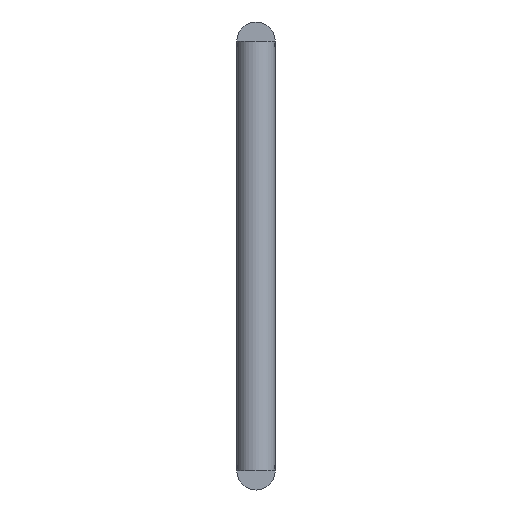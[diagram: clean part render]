
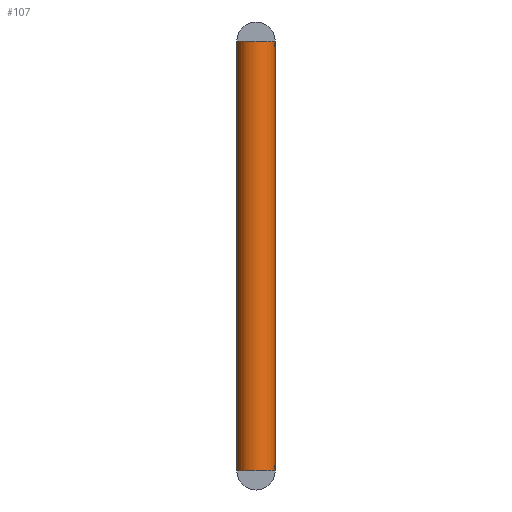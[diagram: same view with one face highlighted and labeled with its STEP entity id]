
A CAD part, front view. The second image highlights one B-rep face of the part: STEP entity #107.
In plain terms, the highlighted cylindrical face has radius 12 mm (diameter 24 mm), a full revolution.
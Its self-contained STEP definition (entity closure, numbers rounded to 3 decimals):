
#107 = ADVANCED_FACE('',(#108),#121,.T.);
#108 = FACE_BOUND('',#109,.T.);
#109 = EDGE_LOOP('',(#110,#144,#167,#194));
#110 = ORIENTED_EDGE('',*,*,#111,.F.);
#111 = EDGE_CURVE('',#112,#112,#114,.T.);
#112 = VERTEX_POINT('',#113);
#113 = CARTESIAN_POINT('',(1507.,-220.,1240.));
#114 = SURFACE_CURVE('',#115,(#120,#132),.PCURVE_S1.);
#115 = CIRCLE('',#116,12.);
#116 = AXIS2_PLACEMENT_3D('',#117,#118,#119);
#117 = CARTESIAN_POINT('',(1495.,-220.,1240.));
#118 = DIRECTION('',(0.,0.,1.));
#119 = DIRECTION('',(1.,0.,-0.));
#120 = PCURVE('',#121,#126);
#121 = CYLINDRICAL_SURFACE('',#122,12.);
#122 = AXIS2_PLACEMENT_3D('',#123,#124,#125);
#123 = CARTESIAN_POINT('',(1495.,-220.,970.));
#124 = DIRECTION('',(0.,0.,1.));
#125 = DIRECTION('',(1.,0.,-0.));
#126 = DEFINITIONAL_REPRESENTATION('',(#127),#131);
#127 = LINE('',#128,#129);
#128 = CARTESIAN_POINT('',(0.,270.));
#129 = VECTOR('',#130,1.);
#130 = DIRECTION('',(1.,0.));
#131 = ( GEOMETRIC_REPRESENTATION_CONTEXT(2) 
PARAMETRIC_REPRESENTATION_CONTEXT() REPRESENTATION_CONTEXT('2D SPACE',''
  ) );
#132 = PCURVE('',#133,#138);
#133 = PLANE('',#134);
#134 = AXIS2_PLACEMENT_3D('',#135,#136,#137);
#135 = CARTESIAN_POINT('',(1495.,-220.,1240.));
#136 = DIRECTION('',(0.,0.,1.));
#137 = DIRECTION('',(1.,0.,-0.));
#138 = DEFINITIONAL_REPRESENTATION('',(#139),#143);
#139 = CIRCLE('',#140,12.);
#140 = AXIS2_PLACEMENT_2D('',#141,#142);
#141 = CARTESIAN_POINT('',(0.,0.));
#142 = DIRECTION('',(1.,0.));
#143 = ( GEOMETRIC_REPRESENTATION_CONTEXT(2) 
PARAMETRIC_REPRESENTATION_CONTEXT() REPRESENTATION_CONTEXT('2D SPACE',''
  ) );
#144 = ORIENTED_EDGE('',*,*,#145,.F.);
#145 = EDGE_CURVE('',#146,#112,#148,.T.);
#146 = VERTEX_POINT('',#147);
#147 = CARTESIAN_POINT('',(1507.,-220.,970.));
#148 = SEAM_CURVE('',#149,(#153,#160),.PCURVE_S1.);
#149 = LINE('',#150,#151);
#150 = CARTESIAN_POINT('',(1507.,-220.,970.));
#151 = VECTOR('',#152,1.);
#152 = DIRECTION('',(0.,0.,1.));
#153 = PCURVE('',#121,#154);
#154 = DEFINITIONAL_REPRESENTATION('',(#155),#159);
#155 = LINE('',#156,#157);
#156 = CARTESIAN_POINT('',(6.283,-0.));
#157 = VECTOR('',#158,1.);
#158 = DIRECTION('',(0.,1.));
#159 = ( GEOMETRIC_REPRESENTATION_CONTEXT(2) 
PARAMETRIC_REPRESENTATION_CONTEXT() REPRESENTATION_CONTEXT('2D SPACE',''
  ) );
#160 = PCURVE('',#121,#161);
#161 = DEFINITIONAL_REPRESENTATION('',(#162),#166);
#162 = LINE('',#163,#164);
#163 = CARTESIAN_POINT('',(0.,-0.));
#164 = VECTOR('',#165,1.);
#165 = DIRECTION('',(0.,1.));
#166 = ( GEOMETRIC_REPRESENTATION_CONTEXT(2) 
PARAMETRIC_REPRESENTATION_CONTEXT() REPRESENTATION_CONTEXT('2D SPACE',''
  ) );
#167 = ORIENTED_EDGE('',*,*,#168,.T.);
#168 = EDGE_CURVE('',#146,#146,#169,.T.);
#169 = SURFACE_CURVE('',#170,(#175,#182),.PCURVE_S1.);
#170 = CIRCLE('',#171,12.);
#171 = AXIS2_PLACEMENT_3D('',#172,#173,#174);
#172 = CARTESIAN_POINT('',(1495.,-220.,970.));
#173 = DIRECTION('',(0.,0.,1.));
#174 = DIRECTION('',(1.,0.,-0.));
#175 = PCURVE('',#121,#176);
#176 = DEFINITIONAL_REPRESENTATION('',(#177),#181);
#177 = LINE('',#178,#179);
#178 = CARTESIAN_POINT('',(0.,0.));
#179 = VECTOR('',#180,1.);
#180 = DIRECTION('',(1.,0.));
#181 = ( GEOMETRIC_REPRESENTATION_CONTEXT(2) 
PARAMETRIC_REPRESENTATION_CONTEXT() REPRESENTATION_CONTEXT('2D SPACE',''
  ) );
#182 = PCURVE('',#183,#188);
#183 = PLANE('',#184);
#184 = AXIS2_PLACEMENT_3D('',#185,#186,#187);
#185 = CARTESIAN_POINT('',(1495.,-220.,970.));
#186 = DIRECTION('',(0.,0.,1.));
#187 = DIRECTION('',(1.,0.,-0.));
#188 = DEFINITIONAL_REPRESENTATION('',(#189),#193);
#189 = CIRCLE('',#190,12.);
#190 = AXIS2_PLACEMENT_2D('',#191,#192);
#191 = CARTESIAN_POINT('',(0.,0.));
#192 = DIRECTION('',(1.,0.));
#193 = ( GEOMETRIC_REPRESENTATION_CONTEXT(2) 
PARAMETRIC_REPRESENTATION_CONTEXT() REPRESENTATION_CONTEXT('2D SPACE',''
  ) );
#194 = ORIENTED_EDGE('',*,*,#145,.T.);
